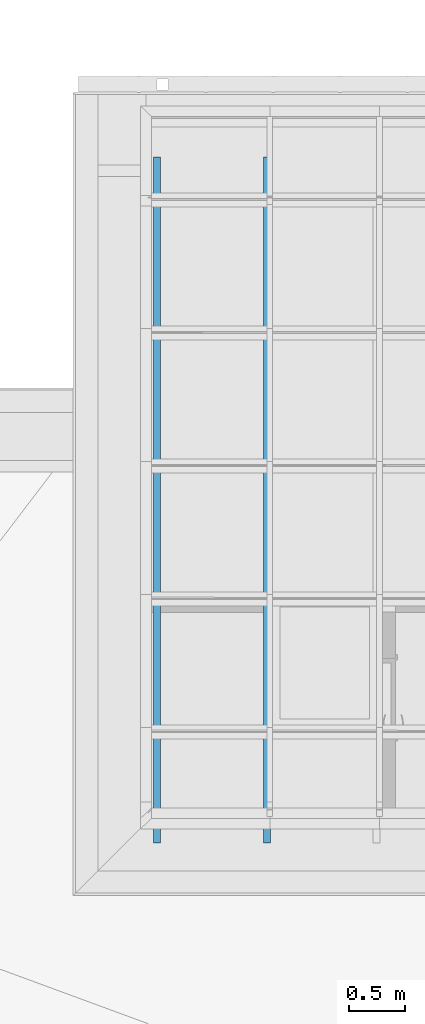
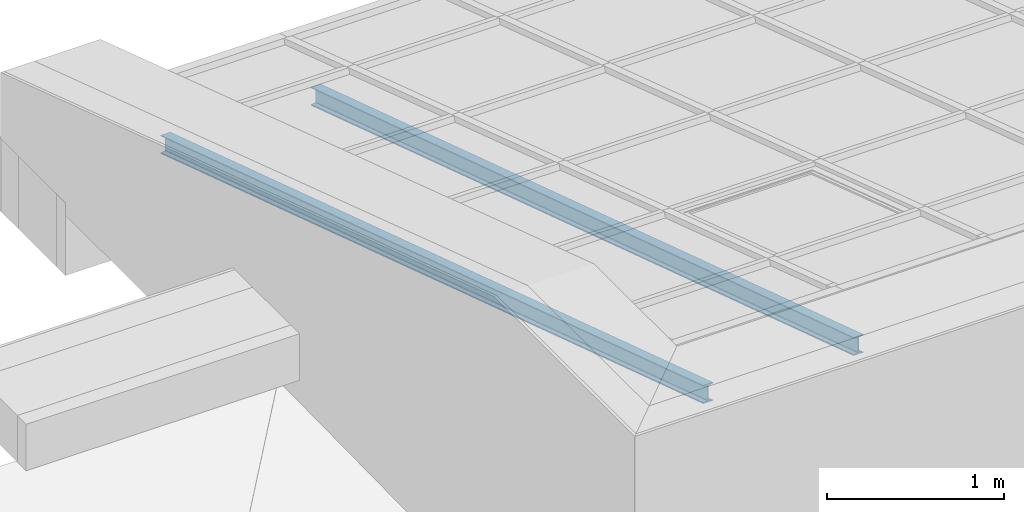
# One storey, part 1 of 47: 2 beams.
"""IFC2X3 building model written with IfcOpenShell, lengths in millimetres."""

from ifc_helpers import new_model, entity, si_unit, converted_unit, derived_unit, money_unit, point, direction, frame, frame_2d, origin_with_axes, place, context, subcontext, project, spatial, polyline, circle_curve, parameter, trimmed, segment, composite_curve, outline, extrude, clip, halfspace, material, type_object, element, save


model = new_model("IFC2X3")

# Units and contexts
model_context = context("Model", 3, precision=1e-05, world=origin_with_axes(), true_north=direction((0.0, 1.0)))
body_context = subcontext(model_context, "Body", "Model", "MODEL_VIEW")
ifc_project = project(units=[si_unit("LENGTHUNIT", "METRE", prefix="MILLI"), si_unit("AREAUNIT", "SQUARE_METRE"), si_unit("VOLUMEUNIT", "CUBIC_METRE"), converted_unit("PLANEANGLEUNIT", "DEGREE", entity("IfcPlaneAngleMeasure", 0.0174532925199), si_unit("PLANEANGLEUNIT", "RADIAN"), dimensions=[0, 0, 0, 0, 0, 0, 0]), si_unit("SOLIDANGLEUNIT", "STERADIAN"), money_unit("EUR"), converted_unit("TIMEUNIT", "Year", entity("IfcTimeMeasure", 31556926.0), si_unit("TIMEUNIT", "SECOND"), dimensions=[0, 0, 1, 0, 0, 0, 0]), si_unit("MASSUNIT", "GRAM", prefix="KILO"), si_unit("THERMODYNAMICTEMPERATUREUNIT", "DEGREE_CELSIUS"), si_unit("LUMINOUSINTENSITYUNIT", "LUMEN"), si_unit("ENERGYUNIT", "JOULE", prefix="MEGA"), derived_unit("THERMALCONDUCTANCEUNIT", [(si_unit("POWERUNIT", "WATT"), 1), (si_unit("LENGTHUNIT", "METRE"), -1), (si_unit("THERMODYNAMICTEMPERATUREUNIT", "KELVIN"), -1)]), derived_unit("SPECIFICHEATCAPACITYUNIT", [(si_unit("ENERGYUNIT", "JOULE"), 1), (si_unit("MASSUNIT", "GRAM", prefix="KILO"), -1), (si_unit("THERMODYNAMICTEMPERATUREUNIT", "KELVIN"), -1)]), derived_unit("MASSDENSITYUNIT", [(si_unit("MASSUNIT", "GRAM", prefix="KILO"), 1), (si_unit("VOLUMEUNIT", "CUBIC_METRE"), -1)])], contexts=[model_context])

# Site, building, storey
site_placement = place(None, origin_with_axes())
site = spatial("IfcSite", under=ifc_project, at=site_placement, Name="Site", CompositionType="ELEMENT")
building_placement = place(site_placement, origin_with_axes())
building = spatial("IfcBuilding", under=site, at=building_placement, Name="Building", CompositionType="ELEMENT")
storey_placement = place(building_placement, frame((0.0, 0.0, 6000.0), z_axis=(0.0, 0.0, 1.0), x_axis=(1.0, 0.0, 0.0)))
storey = spatial("IfcBuildingStorey", under=building, at=storey_placement, Name="KATUSEPLAAN", CompositionType="ELEMENT", Elevation=6000.0)

# Beams
ifc_material = material(Name="Teras (1)")
beam_type = type_object("IfcBeamType", Name="IPE 120", PredefinedType="NOTDEFINED")
beam_1_placement = place(storey_placement, frame((64253.0498253, 46947.8063411, 711.763952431), z_axis=(0.0, 0.0, 1.0), x_axis=(-1.0, 0.0, 0.0)))
element("IfcBeam", 1, at=beam_1_placement, inside=storey, type_object=beam_type, material=ifc_material, Name="I Joist - Steel", ObjectType="I Joist - Steel 64 x 120", context=body_context, shape_type="Clipping", body=[
    clip(clip(extrude(outline(composite_curve([segment(polyline([(32.0018479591, -120.000212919), (32.0018479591, -117.505222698)]), True, "CONTINUOUS"), segment(trimmed(circle_curve(frame_2d((27.3321376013, -117.498683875), x_axis=(0.999999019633, -0.00140026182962)), 4.66971493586), [point((32.0018479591, -117.505222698)), parameter(0.0)], [point((31.7461003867, -115.974488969)), parameter(19.1306436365)], True, "CARTESIAN"), True, "CONTINUOUS"), segment(trimmed(circle_curve(frame_2d((27.8471066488, -117.309508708), x_axis=(0.94607823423, 0.323938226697)), 4.12121703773), [point((31.7461003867, -115.974488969)), parameter(0.0)], [point((31.017792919, -114.676795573)), parameter(20.802576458)], True, "CARTESIAN"), True, "CONTINUOUS"), segment(trimmed(circle_curve(frame_2d((28.4090653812, -116.837495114), x_axis=(0.770140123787, 0.637874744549)), 3.38734141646), [point((31.017792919, -114.676795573)), parameter(0.0)], [point((29.9278037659, -113.809704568)), parameter(23.7281511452)], True, "CARTESIAN"), True, "CONTINUOUS"), segment(trimmed(circle_curve(frame_2d((28.6333599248, -116.404648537), x_axis=(0.446378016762, 0.89484449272)), 2.89988259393), [point((29.9278037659, -113.809704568)), parameter(0.0)], [point((29.1110817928, -113.544386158)), parameter(17.0295027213)], True, "CARTESIAN"), True, "CONTINUOUS"), segment(polyline([(29.1110817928, -113.544386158), (5.24260801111, -109.566039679)]), True, "CONTINUOUS"), segment(trimmed(circle_curve(frame_2d((5.72032987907, -106.7057773), x_axis=(-0.446378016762, -0.89484449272)), 2.89988259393), [point((5.24260801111, -109.566039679)), parameter(17.0295027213)], [point((4.42588603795, -109.300721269)), parameter(0.0)], False, "CARTESIAN"), True, "CONTINUOUS"), segment(trimmed(circle_curve(frame_2d((5.94462442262, -106.272930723), x_axis=(-0.770140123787, -0.637874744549)), 3.38734141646), [point((4.42588603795, -109.300721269)), parameter(23.7281511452)], [point((3.33589688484, -108.433630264)), parameter(0.0)], False, "CARTESIAN"), True, "CONTINUOUS"), segment(trimmed(circle_curve(frame_2d((6.5065831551, -105.800917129), x_axis=(-0.94607823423, -0.323938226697)), 4.12121703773), [point((3.33589688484, -108.433630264)), parameter(20.802576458)], [point((2.60758941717, -107.135936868)), parameter(0.0)], False, "CARTESIAN"), True, "CONTINUOUS"), segment(trimmed(circle_curve(frame_2d((7.02155220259, -105.611741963), x_axis=(-0.999999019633, 0.00140026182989)), 4.66971493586), [point((2.60758941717, -107.135936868)), parameter(19.1306436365)], [point((2.35184184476, -105.605203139)), parameter(0.0)], False, "CARTESIAN"), True, "CONTINUOUS"), segment(polyline([(2.35184184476, -105.605203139), (2.35184184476, -14.3950097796)]), True, "CONTINUOUS"), segment(trimmed(circle_curve(frame_2d((7.02155220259, -14.3884709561), x_axis=(-0.945231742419, 0.326399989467)), 4.66971493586), [point((2.35184184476, -14.3950097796)), parameter(19.1306436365)], [point((2.60758941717, -12.8642760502)), parameter(0.0)], False, "CARTESIAN"), True, "CONTINUOUS"), segment(trimmed(circle_curve(frame_2d((6.5065831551, -14.1992957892), x_axis=(-0.769356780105, 0.638819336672)), 4.12121703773), [point((2.60758941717, -12.8642760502)), parameter(20.802576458)], [point((3.33589688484, -11.5665826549)), parameter(0.0)], False, "CARTESIAN"), True, "CONTINUOUS"), segment(trimmed(circle_curve(frame_2d((5.94462442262, -13.7272821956), x_axis=(-0.44835704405, 0.893854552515)), 3.38734141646), [point((3.33589688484, -11.5665826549)), parameter(23.7281511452)], [point((4.42588603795, -10.6994916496)), parameter(0.0)], False, "CARTESIAN"), True, "CONTINUOUS"), segment(trimmed(circle_curve(frame_2d((5.72032987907, -13.2944356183), x_axis=(-0.164738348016, 0.986337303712)), 2.89988259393), [point((4.42588603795, -10.6994916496)), parameter(17.0295027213)], [point((5.24260801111, -10.4341732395)), parameter(0.0)], False, "CARTESIAN"), True, "CONTINUOUS"), segment(polyline([(5.24260801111, -10.4341732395), (29.1110817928, -6.45582676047)]), True, "CONTINUOUS"), segment(trimmed(circle_curve(frame_2d((28.6333599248, -3.59556438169), x_axis=(0.164738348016, -0.986337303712)), 2.89988259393), [point((29.1110817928, -6.45582676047)), parameter(0.0)], [point((29.9278037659, -6.19050835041)), parameter(17.0295027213)], True, "CARTESIAN"), True, "CONTINUOUS"), segment(trimmed(circle_curve(frame_2d((28.4090653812, -3.16271780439), x_axis=(0.44835704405, -0.893854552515)), 3.38734141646), [point((29.9278037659, -6.19050835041)), parameter(0.0)], [point((31.017792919, -5.32341734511)), parameter(23.7281511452)], True, "CARTESIAN"), True, "CONTINUOUS"), segment(trimmed(circle_curve(frame_2d((27.8471066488, -2.69070421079), x_axis=(0.769356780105, -0.638819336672)), 4.12121703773), [point((31.017792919, -5.32341734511)), parameter(0.0)], [point((31.7461003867, -4.02572394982)), parameter(20.802576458)], True, "CARTESIAN"), True, "CONTINUOUS"), segment(trimmed(circle_curve(frame_2d((27.3321376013, -2.50152904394), x_axis=(0.945231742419, -0.326399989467)), 4.66971493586), [point((31.7461003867, -4.02572394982)), parameter(0.0)], [point((32.0018479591, -2.49499022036)), parameter(19.1306436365)], True, "CARTESIAN"), True, "CONTINUOUS"), segment(polyline([(32.0018479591, -2.49499022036), (32.0018479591, 0.0), (-32.0018479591, 0.0), (-32.0018479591, -2.49499022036)]), True, "CONTINUOUS"), segment(trimmed(circle_curve(frame_2d((-27.3321376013, -2.50152904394), x_axis=(-0.999999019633, 0.00140026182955)), 4.66971493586), [point((-32.0018479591, -2.49499022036)), parameter(0.0)], [point((-31.7461003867, -4.02572394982)), parameter(19.1306436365)], True, "CARTESIAN"), True, "CONTINUOUS"), segment(trimmed(circle_curve(frame_2d((-27.8471066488, -2.69070421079), x_axis=(-0.94607823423, -0.323938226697)), 4.12121703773), [point((-31.7461003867, -4.02572394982)), parameter(0.0)], [point((-31.017792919, -5.32341734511)), parameter(20.802576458)], True, "CARTESIAN"), True, "CONTINUOUS"), segment(trimmed(circle_curve(frame_2d((-28.4090653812, -3.16271780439), x_axis=(-0.770140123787, -0.637874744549)), 3.38734141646), [point((-31.017792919, -5.32341734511)), parameter(0.0)], [point((-29.9278037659, -6.19050835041)), parameter(23.7281511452)], True, "CARTESIAN"), True, "CONTINUOUS"), segment(trimmed(circle_curve(frame_2d((-28.6333599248, -3.59556438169), x_axis=(-0.446378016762, -0.89484449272)), 2.89988259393), [point((-29.9278037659, -6.19050835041)), parameter(0.0)], [point((-29.1110817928, -6.45582676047)), parameter(17.0295027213)], True, "CARTESIAN"), True, "CONTINUOUS"), segment(polyline([(-29.1110817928, -6.45582676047), (-5.24260801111, -10.4341732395)]), True, "CONTINUOUS"), segment(trimmed(circle_curve(frame_2d((-5.72032987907, -13.2944356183), x_axis=(0.446378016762, 0.89484449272)), 2.89988259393), [point((-5.24260801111, -10.4341732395)), parameter(17.0295027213)], [point((-4.42588603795, -10.6994916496)), parameter(0.0)], False, "CARTESIAN"), True, "CONTINUOUS"), segment(trimmed(circle_curve(frame_2d((-5.94462442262, -13.7272821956), x_axis=(0.770140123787, 0.637874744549)), 3.38734141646), [point((-4.42588603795, -10.6994916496)), parameter(23.7281511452)], [point((-3.33589688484, -11.5665826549)), parameter(0.0)], False, "CARTESIAN"), True, "CONTINUOUS"), segment(trimmed(circle_curve(frame_2d((-6.5065831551, -14.1992957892), x_axis=(0.94607823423, 0.323938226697)), 4.12121703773), [point((-3.33589688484, -11.5665826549)), parameter(20.802576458)], [point((-2.60758941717, -12.8642760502)), parameter(0.0)], False, "CARTESIAN"), True, "CONTINUOUS"), segment(trimmed(circle_curve(frame_2d((-7.02155220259, -14.3884709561), x_axis=(0.999999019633, -0.00140026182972)), 4.66971493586), [point((-2.60758941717, -12.8642760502)), parameter(19.1306436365)], [point((-2.35184184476, -14.3950097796)), parameter(0.0)], False, "CARTESIAN"), True, "CONTINUOUS"), segment(polyline([(-2.35184184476, -14.3950097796), (-2.35184184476, -105.605203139)]), True, "CONTINUOUS"), segment(trimmed(circle_curve(frame_2d((-7.02155220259, -105.611741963), x_axis=(0.945231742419, -0.326399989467)), 4.66971493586), [point((-2.35184184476, -105.605203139)), parameter(19.1306436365)], [point((-2.60758941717, -107.135936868)), parameter(0.0)], False, "CARTESIAN"), True, "CONTINUOUS"), segment(trimmed(circle_curve(frame_2d((-6.5065831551, -105.800917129), x_axis=(0.769356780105, -0.638819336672)), 4.12121703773), [point((-2.60758941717, -107.135936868)), parameter(20.802576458)], [point((-3.33589688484, -108.433630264)), parameter(0.0)], False, "CARTESIAN"), True, "CONTINUOUS"), segment(trimmed(circle_curve(frame_2d((-5.94462442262, -106.272930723), x_axis=(0.44835704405, -0.893854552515)), 3.38734141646), [point((-3.33589688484, -108.433630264)), parameter(23.7281511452)], [point((-4.42588603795, -109.300721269)), parameter(0.0)], False, "CARTESIAN"), True, "CONTINUOUS"), segment(trimmed(circle_curve(frame_2d((-5.72032987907, -106.7057773), x_axis=(0.164738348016, -0.986337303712)), 2.89988259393), [point((-4.42588603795, -109.300721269)), parameter(17.0295027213)], [point((-5.24260801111, -109.566039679)), parameter(0.0)], False, "CARTESIAN"), True, "CONTINUOUS"), segment(polyline([(-5.24260801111, -109.566039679), (-29.1110817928, -113.544386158)]), True, "CONTINUOUS"), segment(trimmed(circle_curve(frame_2d((-28.6333599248, -116.404648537), x_axis=(-0.164738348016, 0.986337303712)), 2.89988259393), [point((-29.1110817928, -113.544386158)), parameter(0.0)], [point((-29.9278037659, -113.809704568)), parameter(17.0295027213)], True, "CARTESIAN"), True, "CONTINUOUS"), segment(trimmed(circle_curve(frame_2d((-28.4090653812, -116.837495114), x_axis=(-0.44835704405, 0.893854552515)), 3.38734141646), [point((-29.9278037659, -113.809704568)), parameter(0.0)], [point((-31.017792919, -114.676795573)), parameter(23.7281511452)], True, "CARTESIAN"), True, "CONTINUOUS"), segment(trimmed(circle_curve(frame_2d((-27.8471066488, -117.309508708), x_axis=(-0.769356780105, 0.638819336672)), 4.12121703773), [point((-31.017792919, -114.676795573)), parameter(0.0)], [point((-31.7461003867, -115.974488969)), parameter(20.802576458)], True, "CARTESIAN"), True, "CONTINUOUS"), segment(trimmed(circle_curve(frame_2d((-27.3321376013, -117.498683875), x_axis=(-0.945231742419, 0.326399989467)), 4.66971493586), [point((-31.7461003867, -115.974488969)), parameter(0.0)], [point((-32.0018479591, -117.505222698)), parameter(19.1306436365)], True, "CARTESIAN"), True, "CONTINUOUS"), segment(polyline([(-32.0018479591, -117.505222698), (-32.0018479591, -120.000212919), (32.0018479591, -120.000212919)]), True, "CONTINUOUS")], self_intersect=False)), frame((0.0, 6177.44197876, 2007.17257124), z_axis=(0.0, 0.951056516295, 0.309016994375), x_axis=(-1.0, 0.0, 0.0)), (0.0, 0.0, -1.0), 6550.48764273), halfspace(frame((0.0, 6125.0, 0.0), z_axis=(0.0, -1.0, 0.0), x_axis=(0.0, 0.0, -1.0)), True)), halfspace(frame((0.0, 0.0, 0.0), z_axis=(0.0, 1.0, 0.0), x_axis=(0.0, 0.0, 1.0)), True)),
])
beam_2_placement = place(storey_placement, frame((65233.0498253, 46947.8063411, 699.678842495), z_axis=(0.0, 0.0, 1.0), x_axis=(-1.0, 0.0, 0.0)))
element("IfcBeam", 2, at=beam_2_placement, inside=storey, type_object=beam_type, material=ifc_material, Name="I Joist - Steel", ObjectType="I Joist - Steel 64 x 120", context=body_context, shape_type="Clipping", body=[
    clip(clip(extrude(outline(composite_curve([segment(polyline([(32.0018479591, -120.000212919), (32.0018479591, -117.505222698)]), True, "CONTINUOUS"), segment(trimmed(circle_curve(frame_2d((27.3321376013, -117.498683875), x_axis=(0.999999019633, -0.00140026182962)), 4.66971493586), [point((32.0018479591, -117.505222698)), parameter(0.0)], [point((31.7461003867, -115.974488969)), parameter(19.1306436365)], True, "CARTESIAN"), True, "CONTINUOUS"), segment(trimmed(circle_curve(frame_2d((27.8471066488, -117.309508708), x_axis=(0.94607823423, 0.323938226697)), 4.12121703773), [point((31.7461003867, -115.974488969)), parameter(0.0)], [point((31.017792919, -114.676795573)), parameter(20.802576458)], True, "CARTESIAN"), True, "CONTINUOUS"), segment(trimmed(circle_curve(frame_2d((28.4090653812, -116.837495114), x_axis=(0.770140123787, 0.637874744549)), 3.38734141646), [point((31.017792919, -114.676795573)), parameter(0.0)], [point((29.9278037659, -113.809704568)), parameter(23.7281511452)], True, "CARTESIAN"), True, "CONTINUOUS"), segment(trimmed(circle_curve(frame_2d((28.6333599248, -116.404648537), x_axis=(0.446378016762, 0.89484449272)), 2.89988259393), [point((29.9278037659, -113.809704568)), parameter(0.0)], [point((29.1110817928, -113.544386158)), parameter(17.0295027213)], True, "CARTESIAN"), True, "CONTINUOUS"), segment(polyline([(29.1110817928, -113.544386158), (5.24260801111, -109.566039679)]), True, "CONTINUOUS"), segment(trimmed(circle_curve(frame_2d((5.72032987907, -106.7057773), x_axis=(-0.446378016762, -0.89484449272)), 2.89988259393), [point((5.24260801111, -109.566039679)), parameter(17.0295027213)], [point((4.42588603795, -109.300721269)), parameter(0.0)], False, "CARTESIAN"), True, "CONTINUOUS"), segment(trimmed(circle_curve(frame_2d((5.94462442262, -106.272930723), x_axis=(-0.770140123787, -0.637874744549)), 3.38734141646), [point((4.42588603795, -109.300721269)), parameter(23.7281511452)], [point((3.33589688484, -108.433630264)), parameter(0.0)], False, "CARTESIAN"), True, "CONTINUOUS"), segment(trimmed(circle_curve(frame_2d((6.5065831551, -105.800917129), x_axis=(-0.94607823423, -0.323938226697)), 4.12121703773), [point((3.33589688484, -108.433630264)), parameter(20.802576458)], [point((2.60758941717, -107.135936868)), parameter(0.0)], False, "CARTESIAN"), True, "CONTINUOUS"), segment(trimmed(circle_curve(frame_2d((7.02155220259, -105.611741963), x_axis=(-0.999999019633, 0.00140026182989)), 4.66971493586), [point((2.60758941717, -107.135936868)), parameter(19.1306436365)], [point((2.35184184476, -105.605203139)), parameter(0.0)], False, "CARTESIAN"), True, "CONTINUOUS"), segment(polyline([(2.35184184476, -105.605203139), (2.35184184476, -14.3950097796)]), True, "CONTINUOUS"), segment(trimmed(circle_curve(frame_2d((7.02155220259, -14.3884709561), x_axis=(-0.945231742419, 0.326399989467)), 4.66971493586), [point((2.35184184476, -14.3950097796)), parameter(19.1306436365)], [point((2.60758941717, -12.8642760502)), parameter(0.0)], False, "CARTESIAN"), True, "CONTINUOUS"), segment(trimmed(circle_curve(frame_2d((6.5065831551, -14.1992957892), x_axis=(-0.769356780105, 0.638819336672)), 4.12121703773), [point((2.60758941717, -12.8642760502)), parameter(20.802576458)], [point((3.33589688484, -11.5665826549)), parameter(0.0)], False, "CARTESIAN"), True, "CONTINUOUS"), segment(trimmed(circle_curve(frame_2d((5.94462442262, -13.7272821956), x_axis=(-0.44835704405, 0.893854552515)), 3.38734141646), [point((3.33589688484, -11.5665826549)), parameter(23.7281511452)], [point((4.42588603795, -10.6994916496)), parameter(0.0)], False, "CARTESIAN"), True, "CONTINUOUS"), segment(trimmed(circle_curve(frame_2d((5.72032987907, -13.2944356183), x_axis=(-0.164738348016, 0.986337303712)), 2.89988259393), [point((4.42588603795, -10.6994916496)), parameter(17.0295027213)], [point((5.24260801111, -10.4341732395)), parameter(0.0)], False, "CARTESIAN"), True, "CONTINUOUS"), segment(polyline([(5.24260801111, -10.4341732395), (29.1110817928, -6.45582676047)]), True, "CONTINUOUS"), segment(trimmed(circle_curve(frame_2d((28.6333599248, -3.59556438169), x_axis=(0.164738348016, -0.986337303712)), 2.89988259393), [point((29.1110817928, -6.45582676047)), parameter(0.0)], [point((29.9278037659, -6.19050835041)), parameter(17.0295027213)], True, "CARTESIAN"), True, "CONTINUOUS"), segment(trimmed(circle_curve(frame_2d((28.4090653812, -3.16271780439), x_axis=(0.44835704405, -0.893854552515)), 3.38734141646), [point((29.9278037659, -6.19050835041)), parameter(0.0)], [point((31.017792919, -5.32341734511)), parameter(23.7281511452)], True, "CARTESIAN"), True, "CONTINUOUS"), segment(trimmed(circle_curve(frame_2d((27.8471066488, -2.69070421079), x_axis=(0.769356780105, -0.638819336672)), 4.12121703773), [point((31.017792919, -5.32341734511)), parameter(0.0)], [point((31.7461003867, -4.02572394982)), parameter(20.802576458)], True, "CARTESIAN"), True, "CONTINUOUS"), segment(trimmed(circle_curve(frame_2d((27.3321376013, -2.50152904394), x_axis=(0.945231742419, -0.326399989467)), 4.66971493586), [point((31.7461003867, -4.02572394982)), parameter(0.0)], [point((32.0018479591, -2.49499022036)), parameter(19.1306436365)], True, "CARTESIAN"), True, "CONTINUOUS"), segment(polyline([(32.0018479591, -2.49499022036), (32.0018479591, 0.0), (-32.0018479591, 0.0), (-32.0018479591, -2.49499022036)]), True, "CONTINUOUS"), segment(trimmed(circle_curve(frame_2d((-27.3321376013, -2.50152904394), x_axis=(-0.999999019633, 0.00140026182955)), 4.66971493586), [point((-32.0018479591, -2.49499022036)), parameter(0.0)], [point((-31.7461003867, -4.02572394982)), parameter(19.1306436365)], True, "CARTESIAN"), True, "CONTINUOUS"), segment(trimmed(circle_curve(frame_2d((-27.8471066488, -2.69070421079), x_axis=(-0.94607823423, -0.323938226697)), 4.12121703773), [point((-31.7461003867, -4.02572394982)), parameter(0.0)], [point((-31.017792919, -5.32341734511)), parameter(20.802576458)], True, "CARTESIAN"), True, "CONTINUOUS"), segment(trimmed(circle_curve(frame_2d((-28.4090653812, -3.16271780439), x_axis=(-0.770140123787, -0.637874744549)), 3.38734141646), [point((-31.017792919, -5.32341734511)), parameter(0.0)], [point((-29.9278037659, -6.19050835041)), parameter(23.7281511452)], True, "CARTESIAN"), True, "CONTINUOUS"), segment(trimmed(circle_curve(frame_2d((-28.6333599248, -3.59556438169), x_axis=(-0.446378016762, -0.89484449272)), 2.89988259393), [point((-29.9278037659, -6.19050835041)), parameter(0.0)], [point((-29.1110817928, -6.45582676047)), parameter(17.0295027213)], True, "CARTESIAN"), True, "CONTINUOUS"), segment(polyline([(-29.1110817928, -6.45582676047), (-5.24260801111, -10.4341732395)]), True, "CONTINUOUS"), segment(trimmed(circle_curve(frame_2d((-5.72032987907, -13.2944356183), x_axis=(0.446378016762, 0.89484449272)), 2.89988259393), [point((-5.24260801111, -10.4341732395)), parameter(17.0295027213)], [point((-4.42588603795, -10.6994916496)), parameter(0.0)], False, "CARTESIAN"), True, "CONTINUOUS"), segment(trimmed(circle_curve(frame_2d((-5.94462442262, -13.7272821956), x_axis=(0.770140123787, 0.637874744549)), 3.38734141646), [point((-4.42588603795, -10.6994916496)), parameter(23.7281511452)], [point((-3.33589688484, -11.5665826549)), parameter(0.0)], False, "CARTESIAN"), True, "CONTINUOUS"), segment(trimmed(circle_curve(frame_2d((-6.5065831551, -14.1992957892), x_axis=(0.94607823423, 0.323938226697)), 4.12121703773), [point((-3.33589688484, -11.5665826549)), parameter(20.802576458)], [point((-2.60758941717, -12.8642760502)), parameter(0.0)], False, "CARTESIAN"), True, "CONTINUOUS"), segment(trimmed(circle_curve(frame_2d((-7.02155220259, -14.3884709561), x_axis=(0.999999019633, -0.00140026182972)), 4.66971493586), [point((-2.60758941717, -12.8642760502)), parameter(19.1306436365)], [point((-2.35184184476, -14.3950097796)), parameter(0.0)], False, "CARTESIAN"), True, "CONTINUOUS"), segment(polyline([(-2.35184184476, -14.3950097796), (-2.35184184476, -105.605203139)]), True, "CONTINUOUS"), segment(trimmed(circle_curve(frame_2d((-7.02155220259, -105.611741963), x_axis=(0.945231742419, -0.326399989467)), 4.66971493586), [point((-2.35184184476, -105.605203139)), parameter(19.1306436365)], [point((-2.60758941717, -107.135936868)), parameter(0.0)], False, "CARTESIAN"), True, "CONTINUOUS"), segment(trimmed(circle_curve(frame_2d((-6.5065831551, -105.800917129), x_axis=(0.769356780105, -0.638819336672)), 4.12121703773), [point((-2.60758941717, -107.135936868)), parameter(20.802576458)], [point((-3.33589688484, -108.433630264)), parameter(0.0)], False, "CARTESIAN"), True, "CONTINUOUS"), segment(trimmed(circle_curve(frame_2d((-5.94462442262, -106.272930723), x_axis=(0.44835704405, -0.893854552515)), 3.38734141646), [point((-3.33589688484, -108.433630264)), parameter(23.7281511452)], [point((-4.42588603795, -109.300721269)), parameter(0.0)], False, "CARTESIAN"), True, "CONTINUOUS"), segment(trimmed(circle_curve(frame_2d((-5.72032987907, -106.7057773), x_axis=(0.164738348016, -0.986337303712)), 2.89988259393), [point((-4.42588603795, -109.300721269)), parameter(17.0295027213)], [point((-5.24260801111, -109.566039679)), parameter(0.0)], False, "CARTESIAN"), True, "CONTINUOUS"), segment(polyline([(-5.24260801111, -109.566039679), (-29.1110817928, -113.544386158)]), True, "CONTINUOUS"), segment(trimmed(circle_curve(frame_2d((-28.6333599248, -116.404648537), x_axis=(-0.164738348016, 0.986337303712)), 2.89988259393), [point((-29.1110817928, -113.544386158)), parameter(0.0)], [point((-29.9278037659, -113.809704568)), parameter(17.0295027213)], True, "CARTESIAN"), True, "CONTINUOUS"), segment(trimmed(circle_curve(frame_2d((-28.4090653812, -116.837495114), x_axis=(-0.44835704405, 0.893854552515)), 3.38734141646), [point((-29.9278037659, -113.809704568)), parameter(0.0)], [point((-31.017792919, -114.676795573)), parameter(23.7281511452)], True, "CARTESIAN"), True, "CONTINUOUS"), segment(trimmed(circle_curve(frame_2d((-27.8471066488, -117.309508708), x_axis=(-0.769356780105, 0.638819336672)), 4.12121703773), [point((-31.017792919, -114.676795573)), parameter(0.0)], [point((-31.7461003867, -115.974488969)), parameter(20.802576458)], True, "CARTESIAN"), True, "CONTINUOUS"), segment(trimmed(circle_curve(frame_2d((-27.3321376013, -117.498683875), x_axis=(-0.945231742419, 0.326399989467)), 4.66971493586), [point((-31.7461003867, -115.974488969)), parameter(0.0)], [point((-32.0018479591, -117.505222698)), parameter(19.1306436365)], True, "CARTESIAN"), True, "CONTINUOUS"), segment(polyline([(-32.0018479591, -117.505222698), (-32.0018479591, -120.000212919), (32.0018479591, -120.000212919)]), True, "CONTINUOUS")], self_intersect=False)), frame((0.0, 6177.44201598, 2007.17258333), z_axis=(0.0, 0.951056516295, 0.309016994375), x_axis=(-1.0, 0.0, 0.0)), (0.0, 0.0, -1.0), 6550.487721), halfspace(frame((0.0, 6125.0, 0.0), z_axis=(0.0, -1.0, 0.0), x_axis=(0.0, 0.0, -1.0)), True)), halfspace(frame((0.0, 0.0, 0.0), z_axis=(0.0, 1.0, 0.0), x_axis=(0.0, 0.0, 1.0)), True)),
])

save(model, "model.ifc")
